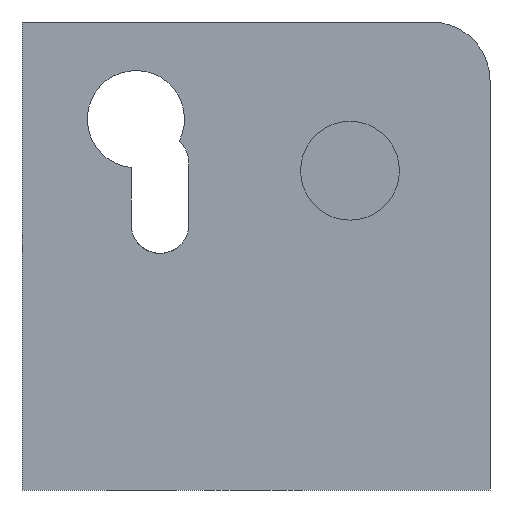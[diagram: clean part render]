
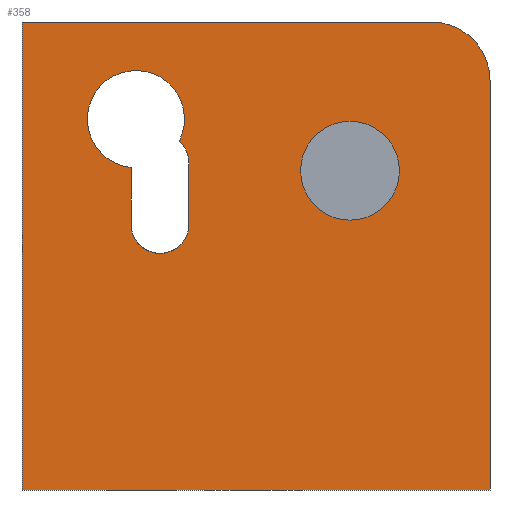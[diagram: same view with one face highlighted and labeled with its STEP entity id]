
A CAD part, front view. The second image highlights one B-rep face of the part: STEP entity #358.
In plain terms, the highlighted planar face has unit normal (0, -1, 0).
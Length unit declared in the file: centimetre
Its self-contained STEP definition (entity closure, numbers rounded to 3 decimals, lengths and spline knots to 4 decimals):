
#5 = EDGE_CURVE ( 'NONE', #459, #587, #1270, .T. ) ;
#10 = FACE_BOUND ( 'NONE', #178, .T. ) ;
#20 = FACE_BOUND ( 'NONE', #1050, .T. ) ;
#28 = EDGE_CURVE ( 'NONE', #43, #778, #1074, .T. ) ;
#42 = CIRCLE ( 'NONE', #135, 61.8827 ) ;
#43 = VERTEX_POINT ( 'NONE', #1599 ) ;
#45 = CARTESIAN_POINT ( 'NONE',  ( 294.8278, 0., 567.4554 ) ) ;
#85 = CARTESIAN_POINT ( 'NONE',  ( 0., 0., 1000. ) ) ;
#98 = EDGE_CURVE ( 'NONE', #533, #335, #515, .T. ) ;
#135 = AXIS2_PLACEMENT_3D ( 'NONE', #45, #437, #475 ) ;
#143 = CARTESIAN_POINT ( 'NONE',  ( 700.8596, 0., 682.2048 ) ) ;
#163 = ORIENTED_EDGE ( 'NONE', *, *, #1377, .F. ) ;
#178 = EDGE_LOOP ( 'NONE', ( #1023, #163, #1703, #1742, #1568, #838 ) ) ;
#191 = CARTESIAN_POINT ( 'NONE',  ( 232.9451, 0., 567.4554 ) ) ;
#207 = AXIS2_PLACEMENT_3D ( 'NONE', #1539, #568, #853 ) ;
#218 = EDGE_CURVE ( 'NONE', #771, #261, #1157, .T. ) ;
#261 = VERTEX_POINT ( 'NONE', #688 ) ;
#277 = CARTESIAN_POINT ( 'NONE',  ( 874.9433, 0., 874.9433 ) ) ;
#335 = VERTEX_POINT ( 'NONE', #560 ) ;
#339 = DIRECTION ( 'NONE',  ( 1., 0., 0. ) ) ;
#349 = CARTESIAN_POINT ( 'NONE',  ( 0., 0., 1000. ) ) ;
#351 = ORIENTED_EDGE ( 'NONE', *, *, #98, .T. ) ;
#358 = ADVANCED_FACE ( 'NONE', ( #20, #10, #1109 ), #420, .F. ) ;
#367 = EDGE_CURVE ( 'NONE', #335, #1166, #1254, .T. ) ;
#388 = VECTOR ( 'NONE', #1755, 100. ) ;
#389 = CARTESIAN_POINT ( 'NONE',  ( 294.8278, 0., 698.7253 ) ) ;
#397 = DIRECTION ( 'NONE',  ( 0., 0., -1. ) ) ;
#420 = PLANE ( 'NONE',  #814 ) ;
#428 = CARTESIAN_POINT ( 'NONE',  ( 243.4273, 0., 792.4687 ) ) ;
#437 = DIRECTION ( 'NONE',  ( 0., -1., 0. ) ) ;
#439 = CARTESIAN_POINT ( 'NONE',  ( 0., 0., 0. ) ) ;
#440 = CARTESIAN_POINT ( 'NONE',  ( 232.9451, 0., 567.4554 ) ) ;
#459 = VERTEX_POINT ( 'NONE', #1424 ) ;
#475 = DIRECTION ( 'NONE',  ( 0., 0., 1. ) ) ;
#486 = LINE ( 'NONE', #349, #869 ) ;
#488 = EDGE_CURVE ( 'NONE', #1167, #658, #1190, .T. ) ;
#515 = LINE ( 'NONE', #1347, #1391 ) ;
#526 = AXIS2_PLACEMENT_3D ( 'NONE', #389, #1094, #1470 ) ;
#533 = VERTEX_POINT ( 'NONE', #85 ) ;
#560 = CARTESIAN_POINT ( 'NONE',  ( 0., 0., 0. ) ) ;
#568 = DIRECTION ( 'NONE',  ( 0., -1., 0. ) ) ;
#587 = VERTEX_POINT ( 'NONE', #1495 ) ;
#589 = CARTESIAN_POINT ( 'NONE',  ( 1000., 0., 0. ) ) ;
#603 = CARTESIAN_POINT ( 'NONE',  ( 335.8009, 0., 745.1007 ) ) ;
#613 = CARTESIAN_POINT ( 'NONE',  ( 294.8278, 0., 567.4554 ) ) ;
#658 = VERTEX_POINT ( 'NONE', #806 ) ;
#686 = ORIENTED_EDGE ( 'NONE', *, *, #980, .F. ) ;
#688 = CARTESIAN_POINT ( 'NONE',  ( 700.8596, 0., 576.5755 ) ) ;
#697 = ORIENTED_EDGE ( 'NONE', *, *, #821, .F. ) ;
#705 = DIRECTION ( 'NONE',  ( 0., 0., 1. ) ) ;
#724 = VECTOR ( 'NONE', #339, 100. ) ;
#725 = DIRECTION ( 'NONE',  ( 0., 0., 1. ) ) ;
#758 = AXIS2_PLACEMENT_3D ( 'NONE', #143, #1112, #826 ) ;
#766 = LINE ( 'NONE', #792, #388 ) ;
#771 = VERTEX_POINT ( 'NONE', #1145 ) ;
#778 = VERTEX_POINT ( 'NONE', #603 ) ;
#792 = CARTESIAN_POINT ( 'NONE',  ( 1000., 0., 1000. ) ) ;
#806 = CARTESIAN_POINT ( 'NONE',  ( 294.8278, 0., 505.5727 ) ) ;
#814 = AXIS2_PLACEMENT_3D ( 'NONE', #836, #963, #705 ) ;
#819 = VECTOR ( 'NONE', #725, 100. ) ;
#821 = EDGE_CURVE ( 'NONE', #261, #771, #928, .T. ) ;
#826 = DIRECTION ( 'NONE',  ( 0., 0., -1. ) ) ;
#827 = ORIENTED_EDGE ( 'NONE', *, *, #218, .F. ) ;
#836 = CARTESIAN_POINT ( 'NONE',  ( 0., 0., 1000. ) ) ;
#838 = ORIENTED_EDGE ( 'NONE', *, *, #488, .F. ) ;
#853 = DIRECTION ( 'NONE',  ( 0., 0., -1. ) ) ;
#869 = VECTOR ( 'NONE', #1457, 100. ) ;
#881 = DIRECTION ( 'NONE',  ( 0., 0., 1. ) ) ;
#928 = CIRCLE ( 'NONE', #758, 105.6294 ) ;
#936 = CARTESIAN_POINT ( 'NONE',  ( 232.9451, 0., 689.1889 ) ) ;
#963 = DIRECTION ( 'NONE',  ( 0., 1., 0. ) ) ;
#980 = EDGE_CURVE ( 'NONE', #533, #587, #486, .T. ) ;
#982 = AXIS2_PLACEMENT_3D ( 'NONE', #613, #1697, #881 ) ;
#989 = DIRECTION ( 'NONE',  ( 0., 0., -1. ) ) ;
#1023 = ORIENTED_EDGE ( 'NONE', *, *, #1317, .F. ) ;
#1050 = EDGE_LOOP ( 'NONE', ( #697, #827 ) ) ;
#1074 = CIRCLE ( 'NONE', #526, 61.8827 ) ;
#1085 = DIRECTION ( 'NONE',  ( 0., 0., 1. ) ) ;
#1094 = DIRECTION ( 'NONE',  ( 0., -1., 0. ) ) ;
#1109 = FACE_OUTER_BOUND ( 'NONE', #1466, .T. ) ;
#1112 = DIRECTION ( 'NONE',  ( 0., -1., 0. ) ) ;
#1122 = LINE ( 'NONE', #1664, #819 ) ;
#1137 = DIRECTION ( 'NONE',  ( 0., -1., 0. ) ) ;
#1145 = CARTESIAN_POINT ( 'NONE',  ( 700.8596, 0., 787.8342 ) ) ;
#1157 = CIRCLE ( 'NONE', #207, 105.6294 ) ;
#1166 = VERTEX_POINT ( 'NONE', #589 ) ;
#1167 = VERTEX_POINT ( 'NONE', #191 ) ;
#1185 = ORIENTED_EDGE ( 'NONE', *, *, #367, .T. ) ;
#1190 = CIRCLE ( 'NONE', #982, 61.8827 ) ;
#1215 = DIRECTION ( 'NONE',  ( 0., -1., 0. ) ) ;
#1217 = AXIS2_PLACEMENT_3D ( 'NONE', #277, #1215, #1085 ) ;
#1254 = LINE ( 'NONE', #439, #724 ) ;
#1262 = LINE ( 'NONE', #440, #1645 ) ;
#1266 = CARTESIAN_POINT ( 'NONE',  ( 356.7105, 0., 567.4554 ) ) ;
#1270 = CIRCLE ( 'NONE', #1217, 125.0567 ) ;
#1317 = EDGE_CURVE ( 'NONE', #1611, #1167, #1262, .T. ) ;
#1347 = CARTESIAN_POINT ( 'NONE',  ( 0., 0., 1000. ) ) ;
#1377 = EDGE_CURVE ( 'NONE', #778, #1611, #1766, .T. ) ;
#1391 = VECTOR ( 'NONE', #397, 100. ) ;
#1424 = CARTESIAN_POINT ( 'NONE',  ( 1000., 0., 874.9433 ) ) ;
#1438 = VERTEX_POINT ( 'NONE', #1266 ) ;
#1457 = DIRECTION ( 'NONE',  ( 1., 0., 0. ) ) ;
#1466 = EDGE_LOOP ( 'NONE', ( #1602, #1529, #686, #351, #1185 ) ) ;
#1470 = DIRECTION ( 'NONE',  ( 0., 0., 1. ) ) ;
#1495 = CARTESIAN_POINT ( 'NONE',  ( 874.9433, 0., 1000. ) ) ;
#1515 = EDGE_CURVE ( 'NONE', #1438, #43, #1122, .T. ) ;
#1529 = ORIENTED_EDGE ( 'NONE', *, *, #5, .T. ) ;
#1539 = CARTESIAN_POINT ( 'NONE',  ( 700.8596, 0., 682.2048 ) ) ;
#1544 = EDGE_CURVE ( 'NONE', #658, #1438, #42, .T. ) ;
#1557 = AXIS2_PLACEMENT_3D ( 'NONE', #428, #1137, #1680 ) ;
#1568 = ORIENTED_EDGE ( 'NONE', *, *, #1544, .F. ) ;
#1575 = EDGE_CURVE ( 'NONE', #459, #1166, #766, .T. ) ;
#1599 = CARTESIAN_POINT ( 'NONE',  ( 356.7105, 0., 698.7253 ) ) ;
#1602 = ORIENTED_EDGE ( 'NONE', *, *, #1575, .F. ) ;
#1611 = VERTEX_POINT ( 'NONE', #936 ) ;
#1645 = VECTOR ( 'NONE', #989, 100. ) ;
#1664 = CARTESIAN_POINT ( 'NONE',  ( 356.7105, 0., 698.7253 ) ) ;
#1680 = DIRECTION ( 'NONE',  ( 0., 0., -1. ) ) ;
#1697 = DIRECTION ( 'NONE',  ( 0., -1., 0. ) ) ;
#1703 = ORIENTED_EDGE ( 'NONE', *, *, #28, .F. ) ;
#1742 = ORIENTED_EDGE ( 'NONE', *, *, #1515, .F. ) ;
#1755 = DIRECTION ( 'NONE',  ( 0., 0., -1. ) ) ;
#1766 = CIRCLE ( 'NONE', #1557, 103.8104 ) ;
